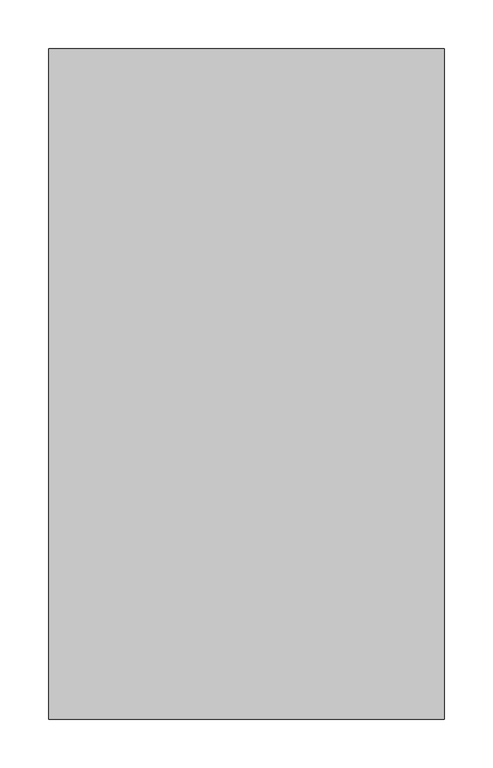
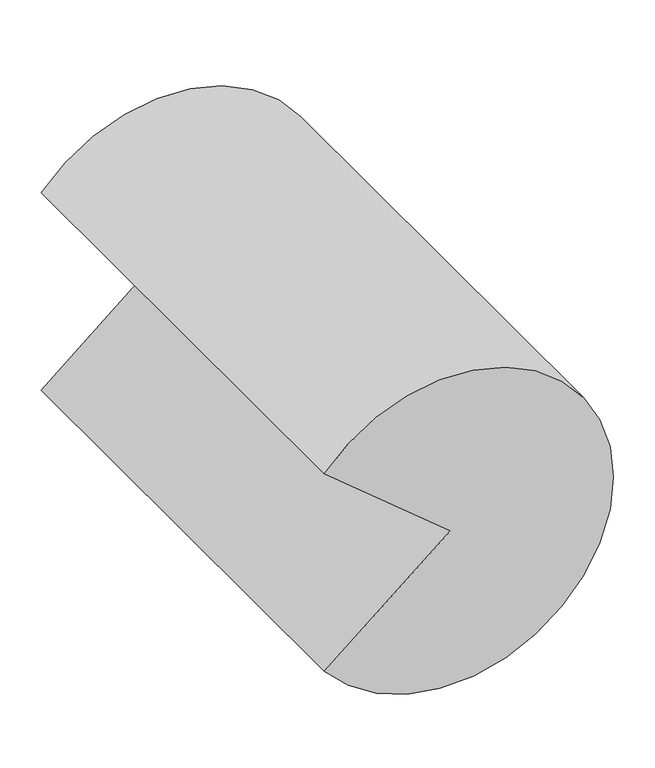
"""IFC4 building model written with IfcOpenShell, lengths in millimetres: proxy geometry, FOUNDATION^TABLE 1_ROUND-BASE SHELL."""

from ifc_helpers import new_model, si_unit, point, frame, origin, origin_2d, place, context, project, spatial, polyline, circle_curve, trimmed, segment, composite_curve, outline, extrude, source, transform, mapped, element, save


def generic_models_5d0cf63c(model_context):
    return source(origin(), model_context, "Body", "SweptSolid", [
        extrude(outline(composite_curve([segment(polyline([(146.05, -175.8617568), (0.0, 0.0), (-146.05, -175.8617568)]), True, "CONTINUOUS"), segment(trimmed(circle_curve(origin_2d(), 228.6), [point((-146.05, -175.8617568))], [point((146.05, -175.8617568))], False, "CARTESIAN"), True, "CONTINUOUS")], self_intersect=False)), frame((0.0, -704.85, 0.0), z_axis=(0.0, 1.0, 0.0), x_axis=(0.0, 0.0, 1.0)), (0.0, 0.0, 1.0), 685.8),
    ])


if __name__ == "__main__":
    model = new_model("IFC4")
    model_context = context("Model", 3, world=origin())
    ifc_project = project(units=[si_unit("LENGTHUNIT", "METRE", prefix="MILLI")], contexts=[model_context])
    site = spatial("IfcSite", under=ifc_project)
    building = spatial("IfcBuilding", under=site)
    placement = place(None, origin())
    generic_models_shape = generic_models_5d0cf63c(model_context)
    element("IfcBuildingElementProxy", 1, Name="FOUNDATION^TABLE 1_ROUND-BASE SHELL", ObjectType="FOUNDATION^TABLE 1_ROUND-BASE SHELL", at=placement, inside=building, context=model_context, shape_type="MappedRepresentation", body=[
        mapped(generic_models_shape, transform((0.0, 0.0, 0.0), x_axis=(1.0, 0.0, 0.0), y_axis=(0.0, 1.0, 0.0), z_axis=(0.0, 0.0, 1.0))),
    ])
    save(model, "model.ifc")
